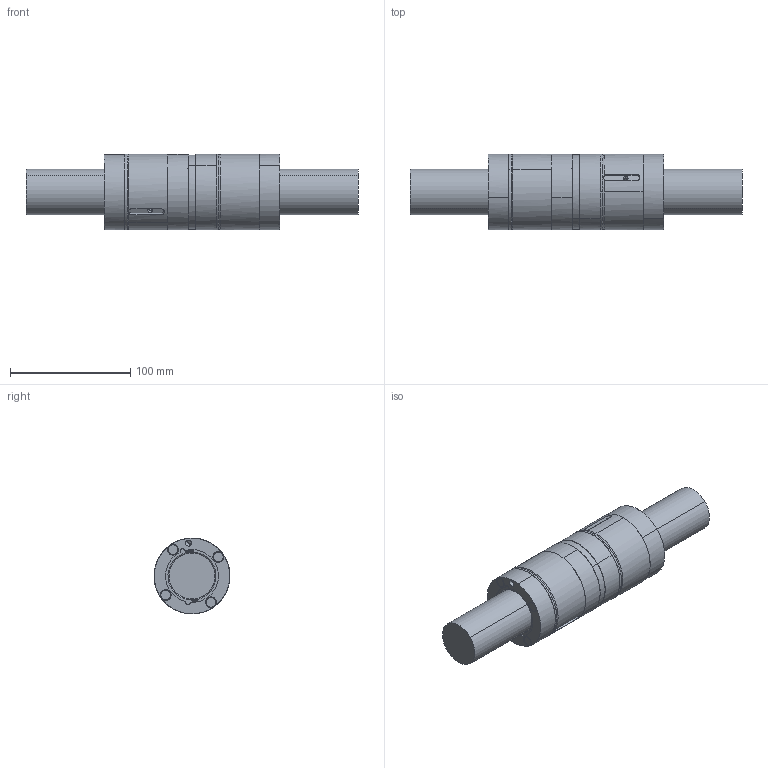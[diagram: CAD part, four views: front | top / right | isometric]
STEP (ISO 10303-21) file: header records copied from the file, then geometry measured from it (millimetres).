
FILE_DESCRIPTION(('Creo Elements/Direct Modeling STEP Export'),'2;1');
FILE_NAME('HSB-KGT-MM-4010RH-1g.stp','2026-07-03T11:43:53',(''),(''),'Creo Elements/Direct Modeling STEP processor for AP214 (Solid Model)','Creo Elements/Direct Modeling 20.1D 10-Oct-2020 (C) Parametric Technology GmbH','');
FILE_SCHEMA(('AUTOMOTIVE_DESIGN { 1 0 10303 214 1 1 1 1 }'));
Length unit declared in the file: millimetre
Products named in the file (3): KGS-4010RH-1g-T7_28232; HSB-KGM-MM-4010RH-1g_31840; HSB-KGT-MM-4010RH-1g
Assembly tree (2 placements, depth 2):
  HSB-KGT-MM-4010RH-1g
    HSB-KGM-MM-4010RH-1g_31840
    KGS-4010RH-1g-T7_28232
Bounding box: 276 x 63 x 63 mm (x, y, z)
Volume: 597669.9 mm3; surface area: 86676.8 mm2
Topology: 2 solids, 2 shells, 950 faces, 2742 edges, 1824 vertices
Faces by surface type: plane 848, cylinder 62, cone 36, torus 4
Entity records: 32622 total; most frequent: CARTESIAN_POINT 7776, ORIENTED_EDGE 5476, DIRECTION 4574, EDGE_CURVE 2738, VECTOR 2478, LINE 2478, VERTEX_POINT 1824, AXIS2_PLACEMENT_3D 1048
